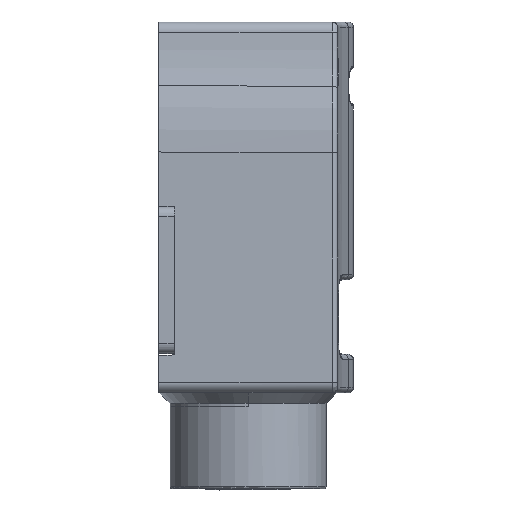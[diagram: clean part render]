
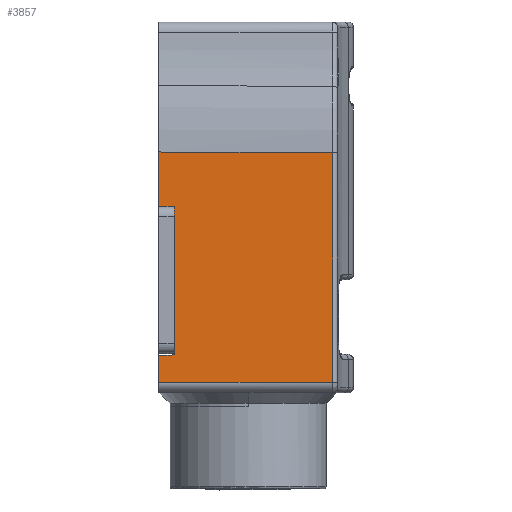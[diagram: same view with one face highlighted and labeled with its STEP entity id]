
A CAD part, left-side view. The second image highlights one B-rep face of the part: STEP entity #3857.
In plain terms, the highlighted planar face has unit normal (-1, -0.026, 0).
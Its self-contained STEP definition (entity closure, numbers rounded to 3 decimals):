
#755=DIRECTION('',(0.,0.,1.));
#756=VECTOR('',#755,21.792);
#757=CARTESIAN_POINT('',(-15.068,-8.013,1.8));
#758=LINE('',#757,#756);
#778=DIRECTION('',(0.026,-1.,0.));
#779=VECTOR('',#778,16.519);
#780=CARTESIAN_POINT('',(-15.5,8.5,1.8));
#781=LINE('',#780,#779);
#908=DIRECTION('',(0.,0.,1.));
#909=VECTOR('',#908,2.582);
#910=CARTESIAN_POINT('',(-15.5,8.5,1.8));
#911=LINE('',#910,#909);
#912=DIRECTION('',(0.026,-1.,0.009));
#913=VECTOR('',#912,1.501);
#914=CARTESIAN_POINT('',(-15.5,8.5,4.382));
#915=LINE('',#914,#913);
#916=DIRECTION('',(0.,0.,1.));
#917=VECTOR('',#916,12.209);
#918=CARTESIAN_POINT('',(-15.461,7.,4.395));
#919=LINE('',#918,#917);
#920=DIRECTION('',(-0.026,1.,0.009));
#921=VECTOR('',#920,1.501);
#922=CARTESIAN_POINT('',(-15.461,7.,16.605));
#923=LINE('',#922,#921);
#924=DIRECTION('',(0.,0.,1.));
#925=VECTOR('',#924,7.044);
#926=CARTESIAN_POINT('',(-15.5,8.5,16.618));
#927=LINE('',#926,#925);
#960=CARTESIAN_POINT('',(-15.5,8.5,23.662));
#2454=DIRECTION('',(-0.026,1.,0.004));
#2455=VECTOR('',#2454,16.519);
#2456=CARTESIAN_POINT('',(-15.068,-8.013,
23.592));
#2457=LINE('',#2456,#2455);
#2662=CARTESIAN_POINT('',(-15.5,8.5,4.382));
#2663=VERTEX_POINT('',#2662);
#2705=CARTESIAN_POINT('',(-15.5,8.5,16.618));
#2707=VERTEX_POINT('',#2705);
#2739=CARTESIAN_POINT('',(-15.461,7.,4.395));
#2740=VERTEX_POINT('',#2739);
#2741=CARTESIAN_POINT('',(-15.461,7.,16.605));
#2742=VERTEX_POINT('',#2741);
#2978=CARTESIAN_POINT('',(-15.5,8.5,1.8));
#2979=VERTEX_POINT('',#2978);
#3010=VERTEX_POINT('',#960);
#3054=CARTESIAN_POINT('',(-15.068,-8.013,
1.8));
#3055=CARTESIAN_POINT('',(-15.068,-8.013,
23.592));
#3056=VERTEX_POINT('',#3054);
#3057=VERTEX_POINT('',#3055);
#3837=CARTESIAN_POINT('',(-15.5,8.5,0.114));
#3838=DIRECTION('',(-1.,-0.026,0.));
#3839=DIRECTION('',(0.,0.,1.));
#3840=AXIS2_PLACEMENT_3D('',#3837,#3838,#3839);
#3841=PLANE('',#3840);
#3842=ORIENTED_EDGE('',*,*,#3744,.F.);
#3843=ORIENTED_EDGE('',*,*,#3784,.F.);
#3844=ORIENTED_EDGE('',*,*,#3798,.T.);
#3846=ORIENTED_EDGE('',*,*,#3845,.T.);
#3848=ORIENTED_EDGE('',*,*,#3847,.T.);
#3850=ORIENTED_EDGE('',*,*,#3849,.T.);
#3852=ORIENTED_EDGE('',*,*,#3851,.T.);
#3854=ORIENTED_EDGE('',*,*,#3853,.F.);
#3855=EDGE_LOOP('',(#3842,#3843,#3844,#3846,#3848,#3850,#3852,#3854));
#3856=FACE_OUTER_BOUND('',#3855,.F.);
#3857=ADVANCED_FACE('',(#3856),#3841,.T.);
#3744=EDGE_CURVE('',#3056,#3057,#758,.T.);
#3784=EDGE_CURVE('',#2979,#3056,#781,.T.);
#3798=EDGE_CURVE('',#2979,#2663,#911,.T.);
#3845=EDGE_CURVE('',#2663,#2740,#915,.T.);
#3847=EDGE_CURVE('',#2740,#2742,#919,.T.);
#3849=EDGE_CURVE('',#2742,#2707,#923,.T.);
#3851=EDGE_CURVE('',#2707,#3010,#927,.T.);
#3853=EDGE_CURVE('',#3057,#3010,#2457,.T.);
